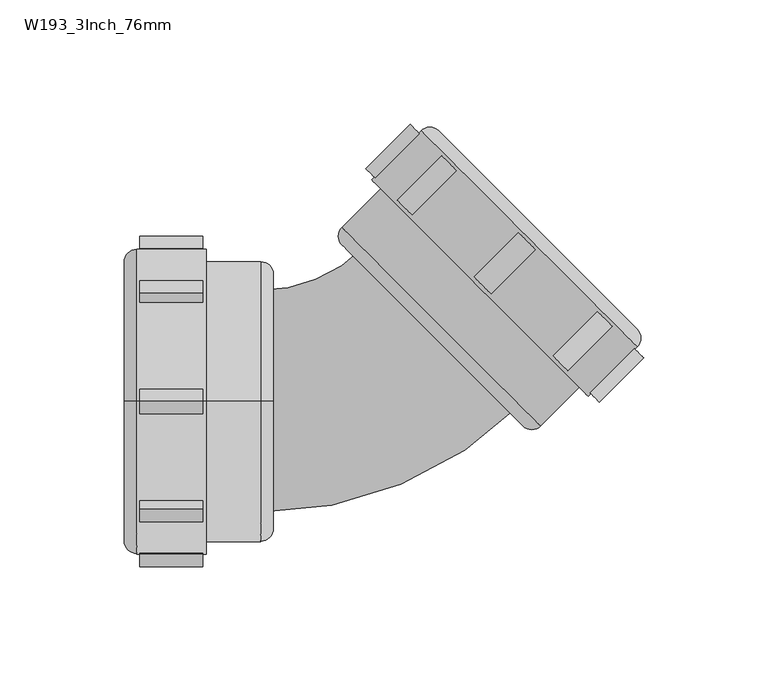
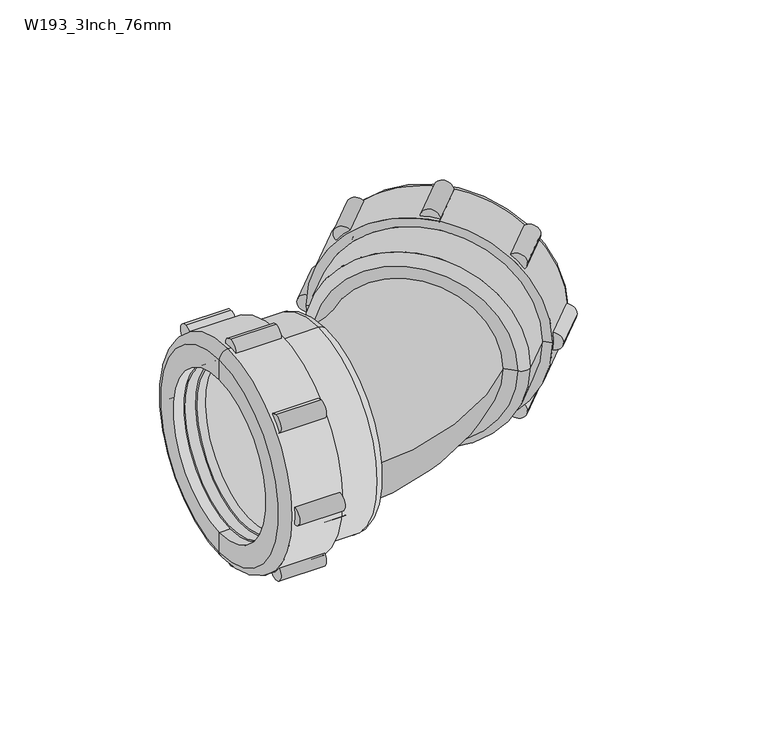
"""IFC4 building model written with IfcOpenShell, lengths in millimetres: pipe fitting geometry, Durapipe_PipeFitting_VulcatheneMechanical_135SlowBend_W19 : W193_3Inch_76mm."""

from ifc_helpers import new_model, si_unit, point, frame, frame_2d, origin, place, context, project, spatial, polyline, circle_curve, ellipse_curve, trimmed, segment, composite_curve, outline, extrude, source, transform, mapped, element, save
from ifc_brep_helpers import plane_surface, cylinder_surface, revolved_surface, advanced_brep


def w193_3inch_76mm_4dbc38d3(model_context):
    return source(origin(), model_context, "Body", "SolidModel", [
        advanced_brep(
        [(61.4648747, 89.9520203, 35.9917352), (112.3648747, 39.0520203, -35.9917352), (109.0648747, 42.3520203, -31.3248304), (64.7648747, 86.6520203, 31.3248304), (49.310607, 73.3977526, 32.8804653), (95.810607, 26.8977526, -32.8804653), (31.8450695, 55.9322151, 32.8804653), (78.3450695, 9.4322151, -32.8804653), (32.9450695, 54.8322151, 31.3248304), (77.2450695, 10.5322151, -31.3248304), (57.1988321, 79.0859777, 31.3248304), (101.4988321, 34.7859777, -31.3248304), (57.6488321, 78.6359777, 30.6884343), (101.0488321, 35.2359777, -30.6884343), (60.4515233, 82.3386689, 31.3248304), (104.7515233, 38.0386689, -31.3248304), (104.3015233, 38.4886689, -30.6884343), (60.9015233, 81.8886689, 30.6884343)],
        [
            (0, 1, circle_curve(frame((86.9148747, 64.5020203, 0.0), z_axis=(0.7071067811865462, 0.7071067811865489, 0.0), x_axis=(0.5000000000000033, -0.4999999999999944, -0.7071067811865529)), 50.9)),
            (1, 2),
            (2, 3, circle_curve(frame((86.9148747, 64.5020203, 0.0), z_axis=(-0.7071067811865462, -0.7071067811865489, 0.0), x_axis=(0.5000000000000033, -0.4999999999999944, -0.7071067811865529)), 44.3)),
            (3, 0),
            (1, 0, circle_curve(frame((86.9148747, 64.5020203, 0.0), z_axis=(0.7071067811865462, 0.7071067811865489, 0.0), x_axis=(0.5000000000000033, -0.4999999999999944, -0.7071067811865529)), 50.9)),
            (3, 2, circle_curve(frame((86.9148747, 64.5020203, 0.0), z_axis=(-0.7071067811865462, -0.7071067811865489, 0.0), x_axis=(0.5000000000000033, -0.4999999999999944, -0.7071067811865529)), 44.3)),
            (0, 4),
            (4, 5, circle_curve(frame((72.560607, 50.1477526, 0.0), z_axis=(0.7071067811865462, 0.7071067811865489, 0.0), x_axis=(0.5000000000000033, -0.4999999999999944, -0.7071067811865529)), 46.5)),
            (5, 1),
            (5, 4, circle_curve(frame((72.560607, 50.1477526, 0.0), z_axis=(0.7071067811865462, 0.7071067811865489, 0.0), x_axis=(0.5000000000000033, -0.4999999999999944, -0.7071067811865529)), 46.5)),
            (6, 7, circle_curve(frame((55.0950695, 32.6822151, 0.0), z_axis=(0.7071067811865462, 0.7071067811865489, 0.0), x_axis=(0.5000000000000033, -0.4999999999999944, -0.7071067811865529)), 46.5)),
            (7, 5),
            (4, 6),
            (7, 6, circle_curve(frame((55.0950695, 32.6822151, 0.0), z_axis=(0.7071067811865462, 0.7071067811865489, 0.0), x_axis=(0.5000000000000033, -0.4999999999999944, -0.7071067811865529)), 46.5)),
            (6, 8),
            (8, 9, circle_curve(frame((55.0950695, 32.6822151, 0.0), z_axis=(0.7071067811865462, 0.7071067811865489, 0.0), x_axis=(0.5000000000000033, -0.4999999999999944, -0.7071067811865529)), 44.3)),
            (9, 7),
            (9, 8, circle_curve(frame((55.0950695, 32.6822151, 0.0), z_axis=(0.7071067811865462, 0.7071067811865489, 0.0), x_axis=(0.5000000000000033, -0.4999999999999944, -0.7071067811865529)), 44.3)),
            (8, 10),
            (10, 11, circle_curve(frame((79.3488321, 56.9359777, 0.0), z_axis=(0.7071067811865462, 0.7071067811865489, 0.0), x_axis=(0.5000000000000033, -0.4999999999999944, -0.7071067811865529)), 44.3)),
            (11, 9),
            (11, 10, circle_curve(frame((79.3488321, 56.9359777, 0.0), z_axis=(0.7071067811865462, 0.7071067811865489, 0.0), x_axis=(0.5000000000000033, -0.4999999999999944, -0.7071067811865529)), 44.3)),
            (10, 12),
            (12, 13, circle_curve(frame((79.3488321, 56.9359777, 0.0), z_axis=(0.7071067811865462, 0.7071067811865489, 0.0), x_axis=(0.5000000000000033, -0.4999999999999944, -0.7071067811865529)), 43.4)),
            (13, 11),
            (13, 12, circle_curve(frame((79.3488321, 56.9359777, 0.0), z_axis=(0.7071067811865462, 0.7071067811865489, 0.0), x_axis=(0.5000000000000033, -0.4999999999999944, -0.7071067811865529)), 43.4)),
            (14, 15, circle_curve(frame((82.6015233, 60.1886689, 0.0), z_axis=(0.7071067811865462, 0.7071067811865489, 0.0), x_axis=(0.5000000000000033, -0.4999999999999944, -0.7071067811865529)), 44.3)),
            (15, 16),
            (16, 17, circle_curve(frame((82.6015233, 60.1886689, 0.0), z_axis=(-0.7071067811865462, -0.7071067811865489, 0.0), x_axis=(0.5000000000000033, -0.4999999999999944, -0.7071067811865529)), 43.4)),
            (17, 14),
            (15, 14, circle_curve(frame((82.6015233, 60.1886689, 0.0), z_axis=(0.7071067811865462, 0.7071067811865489, 0.0), x_axis=(0.5000000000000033, -0.4999999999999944, -0.7071067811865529)), 44.3)),
            (17, 16, circle_curve(frame((82.6015233, 60.1886689, 0.0), z_axis=(-0.7071067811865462, -0.7071067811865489, 0.0), x_axis=(0.5000000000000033, -0.4999999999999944, -0.7071067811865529)), 43.4)),
            (2, 15),
            (14, 3),
            (12, 17),
            (16, 13),
        ],
        [
            plane_surface(frame((86.9148747, 64.5020203, 0.0), z_axis=(0.7071067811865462, 0.7071067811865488, 0.0), x_axis=(0.500000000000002, -0.4999999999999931, -0.707106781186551))),
            revolved_surface(polyline([(112.3648747, 39.0520203, -35.9917352), (95.810607, 26.8977526, -32.8804653)]), (90.4504086, 68.0375542, 0.0), (-0.7071067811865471, -0.7071067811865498, 0.0)),
            cylinder_surface(frame((53.6308948, 31.2180404, 0.0), z_axis=(-0.7071067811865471, -0.7071067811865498, 0.0), x_axis=(0.5000000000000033, -0.4999999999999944, -0.7071067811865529)), 46.5),
            plane_surface(frame((55.0950695, 32.6822151, 0.0), z_axis=(-0.7071067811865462, -0.7071067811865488, 0.0), x_axis=(0.500000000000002, -0.4999999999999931, -0.707106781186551))),
            revolved_surface(polyline([(77.2450695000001, 10.53221510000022, -31.324830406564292), (101.4988321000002, 34.785977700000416, -31.324830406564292)]), (52.6251519, 30.2122975, 0.0), (-0.7071067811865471, -0.7071067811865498, 0.0)),
            plane_surface(frame((79.3488321, 56.9359777, 0.0), z_axis=(-0.7071067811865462, -0.7071067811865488, 0.0), x_axis=(0.500000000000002, -0.4999999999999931, -0.707106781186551))),
            plane_surface(frame((82.6015233, 60.1886689, 0.0), z_axis=(0.7071067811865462, 0.7071067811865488, 0.0), x_axis=(0.500000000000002, -0.4999999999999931, -0.707106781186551))),
            revolved_surface(polyline([(104.7515233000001, 38.038668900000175, -31.324830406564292), (109.06487470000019, 42.35202030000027, -31.324830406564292)]), (90.4504086, 68.0375542, 0.0), (-0.7071067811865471, -0.7071067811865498, 0.0)),
            revolved_surface(polyline([(101.0488321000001, 35.235977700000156, -30.688434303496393), (104.30152330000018, 38.488668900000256, -30.688434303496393)]), (88.0223399, 65.6094855, 0.0), (-0.7071067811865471, -0.7071067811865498, 0.0)),
        ],
        [
            (0, [[1, 2, 3, 4]]),
            (0, [[-2, 5, -4, 6]]),
            (1, [[-1, 7, 8, 9]]),
            (1, [[-5, -9, 10, -7]]),
            (2, [[11, 12, -8, 13]]),
            (2, [[-12, 14, -13, -10]]),
            (3, [[-11, 15, 16, 17]]),
            (3, [[-14, -17, 18, -15]]),
            (4, [[19, 20, 21, -16]]),
            (4, [[-19, -18, -21, 22]]),
            (5, [[-20, 23, 24, 25]]),
            (5, [[-22, -25, 26, -23]]),
            (6, [[27, 28, 29, 30]]),
            (6, [[31, -30, 32, -28]]),
            (7, [[-3, 33, -27, 34]]),
            (7, [[-6, -34, -31, -33]]),
            (8, [[35, -29, 36, -24]]),
            (8, [[-35, -26, -36, -32]]),
        ],
    ),
        advanced_brep(
        [(24.5480566, 89.1093362, 0.0), (111.5221906, 2.1352022, 0.0), (131.3211805, 21.934192, 0.0), (44.3470464, 108.9083261, 0.0), (28.0835905, 85.5738023, 0.0), (107.9866567, 5.6707361, 0.0), (51.4181142, 108.9083261, 0.0), (131.3211805, 29.0052598, 0.0), (123.1894525, 37.1369878, 0.0), (59.5498422, 100.7765981, 0.0), (49.4382152, 101.9786797, 0.0), (124.3915341, 27.0253609, 0.0), (90.3796979, -6.9864753, 0.0), (15.4263791, 67.9668435, 0.0), (55.0950695, 96.3218254, 0.0), (118.7346798, 32.6822151, 0.0), (12.5272413, 70.0174531, 0.0), (92.4303075, -9.8856131, 0.0), (12.5272413, 62.9463853, 0.0), (85.3592397, -9.8856131, 0.0), (48.9432405, 26.5303861, 0.0), (52.9030385, 30.4901841, 0.0)],
        [
            (0, 1, circle_curve(frame((68.0351236, 45.6222692, 0.0), z_axis=(0.7071067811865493, 0.7071067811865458, 0.0), x_axis=(0.7071067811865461, -0.7071067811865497, 0.0)), 61.5)),
            (1, 2),
            (2, 3, circle_curve(frame((87.8341135, 65.4212591, 0.0), z_axis=(-0.7071067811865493, -0.7071067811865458, 0.0), x_axis=(0.7071067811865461, -0.7071067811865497, 0.0)), 61.5)),
            (3, 0),
            (1, 0, circle_curve(frame((68.0351236, 45.6222692, 0.0), z_axis=(0.7071067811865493, 0.7071067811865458, 0.0), x_axis=(0.7071067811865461, -0.7071067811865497, 0.0)), 61.5)),
            (3, 2, circle_curve(frame((87.8341135, 65.4212591, 0.0), z_axis=(-0.7071067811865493, -0.7071067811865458, 0.0), x_axis=(0.7071067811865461, -0.7071067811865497, 0.0)), 61.5)),
            (4, 5, circle_curve(frame((68.0351236, 45.6222692, 0.0), z_axis=(0.7071067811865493, 0.7071067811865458, 0.0), x_axis=(0.7071067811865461, -0.7071067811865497, 0.0)), 56.5)),
            (5, 1),
            (0, 4),
            (5, 4, circle_curve(frame((68.0351236, 45.6222692, 0.0), z_axis=(0.7071067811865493, 0.7071067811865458, 0.0), x_axis=(0.7071067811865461, -0.7071067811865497, 0.0)), 56.5)),
            (6, 7, circle_curve(frame((91.3696474, 68.956793, 0.0), z_axis=(0.7071067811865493, 0.7071067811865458, 0.0), x_axis=(0.7071067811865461, -0.7071067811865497, 0.0)), 56.5)),
            (7, 8),
            (8, 9, circle_curve(frame((91.3696474, 68.956793, 0.0), z_axis=(-0.7071067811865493, -0.7071067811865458, 0.0), x_axis=(0.7071067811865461, -0.7071067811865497, 0.0)), 45.0)),
            (9, 6),
            (7, 6, circle_curve(frame((91.3696474, 68.956793, 0.0), z_axis=(0.7071067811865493, 0.7071067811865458, 0.0), x_axis=(0.7071067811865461, -0.7071067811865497, 0.0)), 56.5)),
            (9, 8, circle_curve(frame((91.3696474, 68.956793, 0.0), z_axis=(-0.7071067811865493, -0.7071067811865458, 0.0), x_axis=(0.7071067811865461, -0.7071067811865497, 0.0)), 45.0)),
            (2, 7, circle_curve(frame((127.7856466, 25.4697259, 0.0), z_axis=(0.0, 0.0, 1.0000000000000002), x_axis=(0.7071067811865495, 0.7071067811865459, 0.0)), 5.0)),
            (6, 3, circle_curve(frame((47.8825803, 105.3727922, 0.0), z_axis=(0.0, 0.0, 1.0000000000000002), x_axis=(0.7071067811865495, 0.7071067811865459, 0.0)), 5.0)),
            (10, 11, circle_curve(frame((86.9148747, 64.5020203, 0.0), z_axis=(0.7071067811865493, 0.7071067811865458, 0.0), x_axis=(0.7071067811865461, -0.7071067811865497, 0.0)), 53.0)),
            (11, 12),
            (12, 13, circle_curve(frame((52.9030385, 30.4901841, 0.0), z_axis=(-0.7071067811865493, -0.7071067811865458, 0.0), x_axis=(0.7071067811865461, -0.7071067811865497, 0.0)), 53.0)),
            (13, 10),
            (11, 10, circle_curve(frame((86.9148747, 64.5020203, 0.0), z_axis=(0.7071067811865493, 0.7071067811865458, 0.0), x_axis=(0.7071067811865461, -0.7071067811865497, 0.0)), 53.0)),
            (13, 12, circle_curve(frame((52.9030385, 30.4901841, 0.0), z_axis=(-0.7071067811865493, -0.7071067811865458, 0.0), x_axis=(0.7071067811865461, -0.7071067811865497, 0.0)), 53.0)),
            (14, 15, circle_curve(frame((86.9148747, 64.5020203, 0.0), z_axis=(0.7071067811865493, 0.7071067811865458, 0.0), x_axis=(0.7071067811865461, -0.7071067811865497, 0.0)), 45.0)),
            (15, 11),
            (10, 14),
            (15, 14, circle_curve(frame((86.9148747, 64.5020203, 0.0), z_axis=(0.7071067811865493, 0.7071067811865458, 0.0), x_axis=(0.7071067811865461, -0.7071067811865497, 0.0)), 45.0)),
            (8, 15),
            (14, 9),
            (16, 17, circle_curve(frame((52.4787744, 30.06592, 0.0), z_axis=(0.7071067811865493, 0.7071067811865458, 0.0), x_axis=(0.7071067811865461, -0.7071067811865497, 0.0)), 56.5)),
            (17, 5),
            (4, 16),
            (17, 16, circle_curve(frame((52.4787744, 30.06592, 0.0), z_axis=(0.7071067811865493, 0.7071067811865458, 0.0), x_axis=(0.7071067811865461, -0.7071067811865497, 0.0)), 56.5)),
            (18, 19, circle_curve(frame((48.9432405, 26.5303861, 0.0), z_axis=(0.7071067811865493, 0.7071067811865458, 0.0), x_axis=(0.7071067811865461, -0.7071067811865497, 0.0)), 51.5)),
            (19, 17, circle_curve(frame((88.8947736, -6.3500792, 0.0), z_axis=(0.0, 0.0, 1.0000000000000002), x_axis=(0.7071067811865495, 0.7071067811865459, 0.0)), 5.0)),
            (16, 18, circle_curve(frame((16.0627752, 66.4819192, 0.0), z_axis=(0.0, 0.0, 1.0000000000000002), x_axis=(0.7071067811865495, 0.7071067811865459, 0.0)), 5.0)),
            (19, 18, circle_curve(frame((48.9432405, 26.5303861, 0.0), z_axis=(0.7071067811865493, 0.7071067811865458, 0.0), x_axis=(0.7071067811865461, -0.7071067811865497, 0.0)), 51.5)),
            (20, 19),
            (18, 20),
            (12, 21),
            (21, 13),
        ],
        [
            cylinder_surface(frame((1195.0231972, 1172.6103428, 0.0), z_axis=(-0.7071067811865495, -0.7071067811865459, 0.0), x_axis=(0.7071067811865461, -0.7071067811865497, 0.0)), 61.5),
            plane_surface(frame((68.0351236, 45.6222692, 0.0), z_axis=(-0.7071067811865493, -0.7071067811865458, 0.0), x_axis=(0.7071067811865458, -0.7071067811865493, 0.0))),
            plane_surface(frame((91.3696474, 68.956793, 0.0), z_axis=(0.7071067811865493, 0.7071067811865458, 0.0), x_axis=(0.7071067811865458, -0.7071067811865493, 0.0))),
            revolved_surface(trimmed(ellipse_curve(frame((127.7856466, 25.4697259, 0.0), z_axis=(0.0, 0.0, -1.0000000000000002), x_axis=(0.7071067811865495, 0.7071067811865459, 0.0)), 5.0, 5.0), [point((131.3211805, 29.0052598, 0.0))], [point((131.3211805, 21.934192, 0.0))], True, "CARTESIAN"), (1195.0231972, 1172.6103428, 0.0), (-0.7071067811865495, -0.7071067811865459, 0.0)),
            revolved_surface(polyline([(90.37969790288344, -6.986475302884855, 0.0), (124.39153410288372, 27.025360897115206, 0.0)]), (1195.0231972, 1172.6103428, 0.0), (-0.7071067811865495, -0.7071067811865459, 0.0)),
            plane_surface(frame((86.9148747, 64.5020203, 0.0), z_axis=(-0.7071067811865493, -0.7071067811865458, 0.0), x_axis=(0.7071067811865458, -0.7071067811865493, 0.0))),
            revolved_surface(polyline([(118.73467980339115, 32.68221509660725, 0.0), (123.18945255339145, 37.13698784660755, 0.0)]), (1195.0231972, 1172.6103428, 0.0), (-0.7071067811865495, -0.7071067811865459, 0.0)),
            cylinder_surface(frame((1195.0231972, 1172.6103428, 0.0), z_axis=(-0.7071067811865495, -0.7071067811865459, 0.0), x_axis=(0.7071067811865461, -0.7071067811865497, 0.0)), 56.5),
            revolved_surface(trimmed(ellipse_curve(frame((88.8947736, -6.3500792, 0.0), z_axis=(0.0, 0.0, -1.0000000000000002), x_axis=(0.7071067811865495, 0.7071067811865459, 0.0)), 5.0, 5.0), [point((92.4303075, -9.8856131, 0.0))], [point((85.3592397, -9.8856131, 0.0))], True, "CARTESIAN"), (1195.0231972, 1172.6103428, 0.0), (-0.7071067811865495, -0.7071067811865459, 0.0)),
            plane_surface(frame((48.9432405, 26.5303861, 0.0), z_axis=(-0.7071067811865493, -0.7071067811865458, 0.0), x_axis=(0.7071067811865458, -0.7071067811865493, 0.0))),
            plane_surface(frame((52.9030385, 30.4901841, 0.0), z_axis=(0.7071067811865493, 0.7071067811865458, 0.0), x_axis=(0.7071067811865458, -0.7071067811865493, 0.0))),
        ],
        [
            (0, [[1, 2, 3, 4]]),
            (0, [[5, -4, 6, -2]]),
            (1, [[7, 8, -1, 9]]),
            (1, [[10, -9, -5, -8]]),
            (2, [[11, 12, 13, 14]]),
            (2, [[15, -14, 16, -12]]),
            (3, [[-3, 17, -11, 18]]),
            (3, [[-6, -18, -15, -17]]),
            (4, [[19, 20, 21, 22]]),
            (4, [[23, -22, 24, -20]]),
            (5, [[25, 26, -19, 27]]),
            (5, [[28, -27, -23, -26]]),
            (6, [[-13, 29, -25, 30]]),
            (6, [[-16, -30, -28, -29]]),
            (7, [[31, 32, -7, 33]]),
            (7, [[34, -33, -10, -32]]),
            (8, [[35, 36, -31, 37]]),
            (8, [[38, -37, -34, -36]]),
            (9, [[39, -35, 40]]),
            (9, [[-40, -38, -39]]),
            (10, [[-21, 41, 42]]),
            (10, [[-24, -42, -41]]),
        ],
    ),
        extrude(outline(composite_curve([segment(trimmed(circle_curve(frame_2d((0.0, -5.0)), 5.0), [point((0.0, -10.0))], [point((0.0, 0.0))], False, "CARTESIAN"), True, "CONTINUOUS"), segment(trimmed(circle_curve(frame_2d((0.0, -5.0)), 5.0), [point((0.0, 0.0))], [point((0.0, -10.0))], False, "CARTESIAN"), True, "CONTINUOUS")], self_intersect=False)), frame((72.6313177, 43.1473955, -61.5), z_axis=(0.7071067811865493, 0.7071067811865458, 0.0), x_axis=(0.0, 0.0, 1.0)), (0.0, 0.0, 1.0), 25.2),
        extrude(outline(composite_curve([segment(trimmed(circle_curve(frame_2d((18.012933, 38.4870671)), 5.0), [point((18.012933, 33.4870671))], [point((18.012933, 43.487067))], False, "CARTESIAN"), True, "CONTINUOUS"), segment(trimmed(circle_curve(frame_2d((18.012933, 38.4870671)), 5.0), [point((18.012933, 43.487067))], [point((18.012933, 33.4870671))], False, "CARTESIAN"), True, "CONTINUOUS")], self_intersect=False)), frame((72.6313177, 43.1473955, -61.5), z_axis=(0.7071067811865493, 0.7071067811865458, 0.0), x_axis=(0.0, 0.0, 1.0)), (0.0, 0.0, 1.0), 25.2),
        extrude(outline(composite_curve([segment(trimmed(circle_curve(frame_2d((61.5, 56.5)), 5.0), [point((61.5, 51.5))], [point((61.5, 61.5))], False, "CARTESIAN"), True, "CONTINUOUS"), segment(trimmed(circle_curve(frame_2d((61.5, 56.5)), 5.0), [point((61.5, 61.5))], [point((61.5, 51.5))], False, "CARTESIAN"), True, "CONTINUOUS")], self_intersect=False)), frame((72.6313177, 43.1473955, -61.5), z_axis=(0.7071067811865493, 0.7071067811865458, 0.0), x_axis=(0.0, 0.0, 1.0)), (0.0, 0.0, 1.0), 25.2),
        extrude(outline(composite_curve([segment(trimmed(circle_curve(frame_2d((104.987067, 38.4870671)), 5.0), [point((104.987067, 33.4870671))], [point((104.987067, 43.487067))], False, "CARTESIAN"), True, "CONTINUOUS"), segment(trimmed(circle_curve(frame_2d((104.987067, 38.4870671)), 5.0), [point((104.987067, 43.487067))], [point((104.987067, 33.4870671))], False, "CARTESIAN"), True, "CONTINUOUS")], self_intersect=False)), frame((72.6313177, 43.1473955, -61.5), z_axis=(0.7071067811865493, 0.7071067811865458, 0.0), x_axis=(0.0, 0.0, 1.0)), (0.0, 0.0, 1.0), 25.2),
        extrude(outline(composite_curve([segment(trimmed(circle_curve(frame_2d((123.0, -5.0)), 5.0), [point((123.0, -10.0))], [point((123.0, 0.0))], False, "CARTESIAN"), True, "CONTINUOUS"), segment(trimmed(circle_curve(frame_2d((123.0, -5.0)), 5.0), [point((123.0, 0.0))], [point((123.0, -10.0))], False, "CARTESIAN"), True, "CONTINUOUS")], self_intersect=False)), frame((72.6313177, 43.1473955, -61.5), z_axis=(0.7071067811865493, 0.7071067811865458, 0.0), x_axis=(0.0, 0.0, 1.0)), (0.0, 0.0, 1.0), 25.2),
        extrude(outline(composite_curve([segment(trimmed(circle_curve(frame_2d((104.987067, -48.487067)), 5.0), [point((104.987067, -53.487067))], [point((104.987067, -43.487067))], False, "CARTESIAN"), True, "CONTINUOUS"), segment(trimmed(circle_curve(frame_2d((104.987067, -48.487067)), 5.0), [point((104.987067, -43.487067))], [point((104.987067, -53.487067))], False, "CARTESIAN"), True, "CONTINUOUS")], self_intersect=False)), frame((72.6313177, 43.1473955, -61.5), z_axis=(0.7071067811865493, 0.7071067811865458, 0.0), x_axis=(0.0, 0.0, 1.0)), (0.0, 0.0, 1.0), 25.2),
        extrude(outline(composite_curve([segment(trimmed(circle_curve(frame_2d((61.5, -66.5)), 5.0), [point((61.5, -71.5))], [point((61.5, -61.5))], False, "CARTESIAN"), True, "CONTINUOUS"), segment(trimmed(circle_curve(frame_2d((61.5, -66.5)), 5.0), [point((61.5, -61.5))], [point((61.5, -71.5))], False, "CARTESIAN"), True, "CONTINUOUS")], self_intersect=False)), frame((72.6313177, 43.1473955, -61.5), z_axis=(0.7071067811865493, 0.7071067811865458, 0.0), x_axis=(0.0, 0.0, 1.0)), (0.0, 0.0, 1.0), 25.2),
        extrude(outline(composite_curve([segment(trimmed(circle_curve(frame_2d((18.012933, -48.487067)), 5.0), [point((18.012933, -53.487067))], [point((18.012933, -43.487067))], False, "CARTESIAN"), True, "CONTINUOUS"), segment(trimmed(circle_curve(frame_2d((18.012933, -48.487067)), 5.0), [point((18.012933, -43.487067))], [point((18.012933, -53.487067))], False, "CARTESIAN"), True, "CONTINUOUS")], self_intersect=False)), frame((72.6313177, 43.1473955, -61.5), z_axis=(0.7071067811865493, 0.7071067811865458, 0.0), x_axis=(0.0, 0.0, 1.0)), (0.0, 0.0, 1.0), 25.2),
        advanced_brep(
        [(-68.8067774, -35.9917352, -35.9917352), (-68.8067774, 35.9917352, 35.9917352), (-68.8067774, 31.3248304, 31.3248304), (-68.8067774, -31.3248304, -31.3248304), (-48.5067774, -32.8804653, -32.8804653), (-48.5067774, 32.8804653, 32.8804653), (-23.8067774, -32.8804653, -32.8804653), (-23.8067774, 32.8804653, 32.8804653), (-23.8067774, -31.3248304, -31.3248304), (-23.8067774, 31.3248304, 31.3248304), (-58.1067774, -31.3248304, -31.3248304), (-58.1067774, 31.3248304, 31.3248304), (-58.1067774, -30.6884343, -30.6884343), (-58.1067774, 30.6884343, 30.6884343), (-62.7067774, -31.3248304, -31.3248304), (-62.7067774, 31.3248304, 31.3248304), (-62.7067774, 30.6884343, 30.6884343), (-62.7067774, -30.6884343, -30.6884343)],
        [
            (0, 1, circle_curve(frame((-68.8067774, 0.0, 0.0), z_axis=(-1.0, 0.0, 0.0), x_axis=(0.0, 0.7071067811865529, 0.7071067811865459)), 50.9)),
            (1, 2),
            (2, 3, circle_curve(frame((-68.8067774, 0.0, 0.0), z_axis=(1.0, 0.0, 0.0), x_axis=(0.0, 0.7071067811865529, 0.7071067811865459)), 44.3)),
            (3, 0),
            (1, 0, circle_curve(frame((-68.8067774, 0.0, 0.0), z_axis=(-1.0, 0.0, 0.0), x_axis=(0.0, 0.7071067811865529, 0.7071067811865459)), 50.9)),
            (3, 2, circle_curve(frame((-68.8067774, 0.0, 0.0), z_axis=(1.0, 0.0, 0.0), x_axis=(0.0, 0.7071067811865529, 0.7071067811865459)), 44.3)),
            (0, 4),
            (4, 5, circle_curve(frame((-48.5067774, 0.0, 0.0), z_axis=(-1.0, 0.0, 0.0), x_axis=(0.0, 0.7071067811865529, 0.7071067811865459)), 46.5)),
            (5, 1),
            (5, 4, circle_curve(frame((-48.5067774, 0.0, 0.0), z_axis=(-1.0, 0.0, 0.0), x_axis=(0.0, 0.7071067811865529, 0.7071067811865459)), 46.5)),
            (6, 7, circle_curve(frame((-23.8067774, 0.0, 0.0), z_axis=(-1.0, 0.0, 0.0), x_axis=(0.0, 0.7071067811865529, 0.7071067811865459)), 46.5)),
            (7, 5),
            (4, 6),
            (7, 6, circle_curve(frame((-23.8067774, 0.0, 0.0), z_axis=(-1.0, 0.0, 0.0), x_axis=(0.0, 0.7071067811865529, 0.7071067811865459)), 46.5)),
            (6, 8),
            (8, 9, circle_curve(frame((-23.8067774, 0.0, 0.0), z_axis=(-1.0, 0.0, 0.0), x_axis=(0.0, 0.7071067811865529, 0.7071067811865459)), 44.3)),
            (9, 7),
            (9, 8, circle_curve(frame((-23.8067774, 0.0, 0.0), z_axis=(-1.0, 0.0, 0.0), x_axis=(0.0, 0.7071067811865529, 0.7071067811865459)), 44.3)),
            (8, 10),
            (10, 11, circle_curve(frame((-58.1067774, 0.0, 0.0), z_axis=(-1.0, 0.0, 0.0), x_axis=(0.0, 0.7071067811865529, 0.7071067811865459)), 44.3)),
            (11, 9),
            (11, 10, circle_curve(frame((-58.1067774, 0.0, 0.0), z_axis=(-1.0, 0.0, 0.0), x_axis=(0.0, 0.7071067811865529, 0.7071067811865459)), 44.3)),
            (10, 12),
            (12, 13, circle_curve(frame((-58.1067774, 0.0, 0.0), z_axis=(-1.0, 0.0, 0.0), x_axis=(0.0, 0.7071067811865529, 0.7071067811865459)), 43.4)),
            (13, 11),
            (13, 12, circle_curve(frame((-58.1067774, 0.0, 0.0), z_axis=(-1.0, 0.0, 0.0), x_axis=(0.0, 0.7071067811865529, 0.7071067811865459)), 43.4)),
            (14, 15, circle_curve(frame((-62.7067774, 0.0, 0.0), z_axis=(-1.0, 0.0, 0.0), x_axis=(0.0, 0.7071067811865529, 0.7071067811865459)), 44.3)),
            (15, 16),
            (16, 17, circle_curve(frame((-62.7067774, 0.0, 0.0), z_axis=(1.0, 0.0, 0.0), x_axis=(0.0, 0.7071067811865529, 0.7071067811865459)), 43.4)),
            (17, 14),
            (15, 14, circle_curve(frame((-62.7067774, 0.0, 0.0), z_axis=(-1.0, 0.0, 0.0), x_axis=(0.0, 0.7071067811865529, 0.7071067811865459)), 44.3)),
            (17, 16, circle_curve(frame((-62.7067774, 0.0, 0.0), z_axis=(1.0, 0.0, 0.0), x_axis=(0.0, 0.7071067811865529, 0.7071067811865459)), 43.4)),
            (2, 15),
            (14, 3),
            (12, 17),
            (16, 13),
        ],
        [
            plane_surface(frame((-68.8067774, 0.0, 0.0), z_axis=(-1.0, 0.0, 0.0), x_axis=(0.0, 0.707106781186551, 0.707106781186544))),
            revolved_surface(polyline([(-68.8067774, 35.9917352, 35.9917352), (-48.5067774, 32.8804653, 32.8804653)]), (-73.8067774, 0.0, 0.0), (1.0000000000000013, 0.0, 0.0)),
            cylinder_surface(frame((-21.7361217, 0.0, 0.0), z_axis=(1.0000000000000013, 0.0, 0.0), x_axis=(0.0, 0.7071067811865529, 0.7071067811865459)), 46.5),
            plane_surface(frame((-23.8067774, 0.0, 0.0), z_axis=(1.0, 0.0, 0.0), x_axis=(0.0, 0.707106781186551, 0.707106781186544))),
            revolved_surface(polyline([(-23.80677740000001, 31.324830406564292, 31.324830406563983), (-58.1067774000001, 31.324830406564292, 31.324830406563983)]), (-20.3137865, 0.0, 0.0), (1.0000000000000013, 0.0, 0.0)),
            plane_surface(frame((-58.1067774, 0.0, 0.0), z_axis=(1.0, 0.0, 0.0), x_axis=(0.0, 0.707106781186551, 0.707106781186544))),
            plane_surface(frame((-62.7067774, 0.0, 0.0), z_axis=(-1.0, 0.0, 0.0), x_axis=(0.0, 0.707106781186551, 0.707106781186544))),
            revolved_surface(polyline([(-62.70677739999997, 31.324830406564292, 31.324830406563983), (-68.80677739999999, 31.324830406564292, 31.324830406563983)]), (-73.8067774, 0.0, 0.0), (1.0000000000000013, 0.0, 0.0)),
            revolved_surface(polyline([(-58.10677739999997, 30.688434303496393, 30.68843430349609), (-62.70677739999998, 30.688434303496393, 30.68843430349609)]), (-70.3729699, 0.0, 0.0), (1.0000000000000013, 0.0, 0.0)),
        ],
        [
            (0, [[1, 2, 3, 4]]),
            (0, [[-2, 5, -4, 6]]),
            (1, [[-1, 7, 8, 9]]),
            (1, [[-5, -9, 10, -7]]),
            (2, [[11, 12, -8, 13]]),
            (2, [[-12, 14, -13, -10]]),
            (3, [[-11, 15, 16, 17]]),
            (3, [[-14, -17, 18, -15]]),
            (4, [[19, 20, 21, -16]]),
            (4, [[-19, -18, -21, 22]]),
            (5, [[-20, 23, 24, 25]]),
            (5, [[-22, -25, 26, -23]]),
            (6, [[27, 28, 29, 30]]),
            (6, [[31, -30, 32, -28]]),
            (7, [[-3, 33, -27, 34]]),
            (7, [[-6, -34, -31, -33]]),
            (8, [[35, -29, 36, -24]]),
            (8, [[-35, -26, -36, -32]]),
        ],
    ),
        advanced_brep(
        [(-42.1067774, 0.0, -61.5), (-42.1067774, 0.0, 61.5), (-70.1067774, 0.0, 61.5), (-70.1067774, 0.0, -61.5), (-42.1067774, 0.0, -56.5), (-42.1067774, 0.0, 56.5), (-75.1067774, 0.0, -56.5), (-75.1067774, 0.0, 56.5), (-75.1067774, 0.0, 45.0), (-75.1067774, 0.0, -45.0), (-68.8067774, 0.0, -53.0), (-68.8067774, 0.0, 53.0), (-20.7067774, 0.0, 53.0), (-20.7067774, 0.0, -53.0), (-68.8067774, 0.0, -45.0), (-68.8067774, 0.0, 45.0), (-20.1067774, 0.0, -56.5), (-20.1067774, 0.0, 56.5), (-15.1067774, 0.0, -51.5), (-15.1067774, 0.0, 51.5), (-15.1067774, 0.0, 0.0), (-20.7067774, 0.0, 0.0)],
        [
            (0, 1, circle_curve(frame((-42.1067774, 0.0, 0.0), z_axis=(-1.0, 0.0, 0.0), x_axis=(0.0, 0.0, 1.0000000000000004)), 61.5)),
            (1, 2),
            (2, 3, circle_curve(frame((-70.1067774, 0.0, 0.0), z_axis=(1.0, 0.0, 0.0), x_axis=(0.0, 0.0, 1.0000000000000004)), 61.5)),
            (3, 0),
            (1, 0, circle_curve(frame((-42.1067774, 0.0, 0.0), z_axis=(-1.0, 0.0, 0.0), x_axis=(0.0, 0.0, 1.0000000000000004)), 61.5)),
            (3, 2, circle_curve(frame((-70.1067774, 0.0, 0.0), z_axis=(1.0, 0.0, 0.0), x_axis=(0.0, 0.0, 1.0000000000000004)), 61.5)),
            (4, 5, circle_curve(frame((-42.1067774, 0.0, 0.0), z_axis=(-1.0, 0.0, 0.0), x_axis=(0.0, 0.0, 1.0000000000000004)), 56.5)),
            (5, 1),
            (0, 4),
            (5, 4, circle_curve(frame((-42.1067774, 0.0, 0.0), z_axis=(-1.0, 0.0, 0.0), x_axis=(0.0, 0.0, 1.0000000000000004)), 56.5)),
            (6, 7, circle_curve(frame((-75.1067774, 0.0, 0.0), z_axis=(-1.0, 0.0, 0.0), x_axis=(0.0, 0.0, 1.0000000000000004)), 56.5)),
            (7, 8),
            (8, 9, circle_curve(frame((-75.1067774, 0.0, 0.0), z_axis=(1.0, 0.0, 0.0), x_axis=(0.0, 0.0, 1.0000000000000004)), 45.0)),
            (9, 6),
            (7, 6, circle_curve(frame((-75.1067774, 0.0, 0.0), z_axis=(-1.0, 0.0, 0.0), x_axis=(0.0, 0.0, 1.0000000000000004)), 56.5)),
            (9, 8, circle_curve(frame((-75.1067774, 0.0, 0.0), z_axis=(1.0, 0.0, 0.0), x_axis=(0.0, 0.0, 1.0000000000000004)), 45.0)),
            (2, 7, circle_curve(frame((-70.1067774, 0.0, 56.5), z_axis=(0.0, -1.0000000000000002, 0.0), x_axis=(-1.0000000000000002, 0.0, 0.0)), 5.0)),
            (6, 3, circle_curve(frame((-70.1067774, 0.0, -56.5), z_axis=(0.0, -1.0000000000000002, 0.0), x_axis=(-1.0000000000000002, 0.0, 0.0)), 5.0)),
            (10, 11, circle_curve(frame((-68.8067774, 0.0, 0.0), z_axis=(-1.0, 0.0, 0.0), x_axis=(0.0, 0.0, 1.0000000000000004)), 53.0)),
            (11, 12),
            (12, 13, circle_curve(frame((-20.7067774, 0.0, 0.0), z_axis=(1.0, 0.0, 0.0), x_axis=(0.0, 0.0, 1.0000000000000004)), 53.0)),
            (13, 10),
            (11, 10, circle_curve(frame((-68.8067774, 0.0, 0.0), z_axis=(-1.0, 0.0, 0.0), x_axis=(0.0, 0.0, 1.0000000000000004)), 53.0)),
            (13, 12, circle_curve(frame((-20.7067774, 0.0, 0.0), z_axis=(1.0, 0.0, 0.0), x_axis=(0.0, 0.0, 1.0000000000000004)), 53.0)),
            (14, 15, circle_curve(frame((-68.8067774, 0.0, 0.0), z_axis=(-1.0, 0.0, 0.0), x_axis=(0.0, 0.0, 1.0000000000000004)), 45.0)),
            (15, 11),
            (10, 14),
            (15, 14, circle_curve(frame((-68.8067774, 0.0, 0.0), z_axis=(-1.0, 0.0, 0.0), x_axis=(0.0, 0.0, 1.0000000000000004)), 45.0)),
            (8, 15),
            (14, 9),
            (16, 17, circle_curve(frame((-20.1067774, 0.0, 0.0), z_axis=(-1.0, 0.0, 0.0), x_axis=(0.0, 0.0, 1.0000000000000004)), 56.5)),
            (17, 5),
            (4, 16),
            (17, 16, circle_curve(frame((-20.1067774, 0.0, 0.0), z_axis=(-1.0, 0.0, 0.0), x_axis=(0.0, 0.0, 1.0000000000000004)), 56.5)),
            (18, 19, circle_curve(frame((-15.1067774, 0.0, 0.0), z_axis=(-1.0, 0.0, 0.0), x_axis=(0.0, 0.0, 1.0000000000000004)), 51.5)),
            (19, 17, circle_curve(frame((-20.1067774, 0.0, 51.5), z_axis=(0.0, -1.0000000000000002, 0.0), x_axis=(-1.0000000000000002, 0.0, 0.0)), 5.0)),
            (16, 18, circle_curve(frame((-20.1067774, 0.0, -51.5), z_axis=(0.0, -1.0000000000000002, 0.0), x_axis=(-1.0000000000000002, 0.0, 0.0)), 5.0)),
            (19, 18, circle_curve(frame((-15.1067774, 0.0, 0.0), z_axis=(-1.0, 0.0, 0.0), x_axis=(0.0, 0.0, 1.0000000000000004)), 51.5)),
            (20, 19),
            (18, 20),
            (12, 21),
            (21, 13),
        ],
        [
            cylinder_surface(frame((-1635.9085958, 0.0, 0.0), z_axis=(1.0000000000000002, 0.0, 0.0), x_axis=(0.0, 0.0, 1.0000000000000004)), 61.5),
            plane_surface(frame((-42.1067774, 0.0, 0.0), z_axis=(1.0, 0.0, 0.0), x_axis=(0.0, 0.0, 1.0))),
            plane_surface(frame((-75.1067774, 0.0, 0.0), z_axis=(-1.0, 0.0, 0.0), x_axis=(0.0, 0.0, 1.0))),
            revolved_surface(trimmed(ellipse_curve(frame((-70.1067774, 0.0, 56.5), z_axis=(0.0, 1.0000000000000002, 0.0), x_axis=(-1.0000000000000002, 0.0, 0.0)), 5.0, 5.0), [point((-75.1067774, 0.0, 56.5))], [point((-70.1067774, 0.0, 61.5))], True, "CARTESIAN"), (-1635.9085958, 0.0, 0.0), (1.0000000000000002, 0.0, 0.0)),
            revolved_surface(polyline([(-20.706777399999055, 0.0, 53.00000000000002), (-68.80677739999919, 0.0, 53.00000000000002)]), (-1635.9085958, 0.0, 0.0), (1.0000000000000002, 0.0, 0.0)),
            plane_surface(frame((-68.8067774, 0.0, 0.0), z_axis=(1.0, 0.0, 0.0), x_axis=(0.0, 0.0, 1.0))),
            revolved_surface(polyline([(-68.80677739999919, 0.0, 45.00000000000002), (-75.10677739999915, 0.0, 45.00000000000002)]), (-1635.9085958, 0.0, 0.0), (1.0000000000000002, 0.0, 0.0)),
            cylinder_surface(frame((-1635.9085958, 0.0, 0.0), z_axis=(1.0000000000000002, 0.0, 0.0), x_axis=(0.0, 0.0, 1.0000000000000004)), 56.5),
            revolved_surface(trimmed(ellipse_curve(frame((-20.1067774, 0.0, 51.5), z_axis=(0.0, 1.0000000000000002, 0.0), x_axis=(-1.0000000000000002, 0.0, 0.0)), 5.0, 5.0), [point((-20.1067774, 0.0, 56.5))], [point((-15.1067774, 0.0, 51.5))], True, "CARTESIAN"), (-1635.9085958, 0.0, 0.0), (1.0000000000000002, 0.0, 0.0)),
            plane_surface(frame((-15.1067774, 0.0, 0.0), z_axis=(1.0, 0.0, 0.0), x_axis=(0.0, 0.0, 1.0))),
            plane_surface(frame((-20.7067774, 0.0, 0.0), z_axis=(-1.0, 0.0, 0.0), x_axis=(0.0, 0.0, 1.0))),
        ],
        [
            (0, [[1, 2, 3, 4]]),
            (0, [[5, -4, 6, -2]]),
            (1, [[7, 8, -1, 9]]),
            (1, [[10, -9, -5, -8]]),
            (2, [[11, 12, 13, 14]]),
            (2, [[15, -14, 16, -12]]),
            (3, [[-3, 17, -11, 18]]),
            (3, [[-6, -18, -15, -17]]),
            (4, [[19, 20, 21, 22]]),
            (4, [[23, -22, 24, -20]]),
            (5, [[25, 26, -19, 27]]),
            (5, [[28, -27, -23, -26]]),
            (6, [[-13, 29, -25, 30]]),
            (6, [[-16, -30, -28, -29]]),
            (7, [[31, 32, -7, 33]]),
            (7, [[34, -33, -10, -32]]),
            (8, [[35, 36, -31, 37]]),
            (8, [[38, -37, -34, -36]]),
            (9, [[39, -35, 40]]),
            (9, [[-40, -38, -39]]),
            (10, [[-21, 41, 42]]),
            (10, [[-24, -42, -41]]),
        ],
    ),
        extrude(outline(composite_curve([segment(trimmed(circle_curve(frame_2d((61.5, 0.0)), 5.0), [point((61.5, -5.0))], [point((61.5, 5.0))], False, "CARTESIAN"), True, "CONTINUOUS"), segment(trimmed(circle_curve(frame_2d((61.5, 0.0)), 5.0), [point((61.5, 5.0))], [point((61.5, -5.0))], False, "CARTESIAN"), True, "CONTINUOUS")], self_intersect=False)), frame((-68.8067774, 0.0, 0.0), z_axis=(1.0, 0.0, 0.0), x_axis=(0.0, 1.0, 0.0)), (0.0, 0.0, 1.0), 25.2),
        extrude(outline(composite_curve([segment(trimmed(circle_curve(frame_2d((43.487067, 43.487067)), 5.0), [point((43.487067, 38.487067))], [point((43.487067, 48.487067))], False, "CARTESIAN"), True, "CONTINUOUS"), segment(trimmed(circle_curve(frame_2d((43.487067, 43.487067)), 5.0), [point((43.487067, 48.487067))], [point((43.487067, 38.487067))], False, "CARTESIAN"), True, "CONTINUOUS")], self_intersect=False)), frame((-68.8067774, 0.0, 0.0), z_axis=(1.0, 0.0, 0.0), x_axis=(0.0, 1.0, 0.0)), (0.0, 0.0, 1.0), 25.2),
        extrude(outline(composite_curve([segment(trimmed(circle_curve(frame_2d((0.0, 61.5)), 5.0), [point((0.0, 56.5))], [point((0.0, 66.5))], False, "CARTESIAN"), True, "CONTINUOUS"), segment(trimmed(circle_curve(frame_2d((0.0, 61.5)), 5.0), [point((0.0, 66.5))], [point((0.0, 56.5))], False, "CARTESIAN"), True, "CONTINUOUS")], self_intersect=False)), frame((-68.8067774, 0.0, 0.0), z_axis=(1.0, 0.0, 0.0), x_axis=(0.0, 1.0, 0.0)), (0.0, 0.0, 1.0), 25.2),
        extrude(outline(composite_curve([segment(trimmed(circle_curve(frame_2d((-43.487067, 43.487067)), 5.0), [point((-43.487067, 38.487067))], [point((-43.487067, 48.487067))], False, "CARTESIAN"), True, "CONTINUOUS"), segment(trimmed(circle_curve(frame_2d((-43.487067, 43.487067)), 5.0), [point((-43.487067, 48.487067))], [point((-43.487067, 38.487067))], False, "CARTESIAN"), True, "CONTINUOUS")], self_intersect=False)), frame((-68.8067774, 0.0, 0.0), z_axis=(1.0, 0.0, 0.0), x_axis=(0.0, 1.0, 0.0)), (0.0, 0.0, 1.0), 25.2),
        extrude(outline(composite_curve([segment(trimmed(circle_curve(frame_2d((-61.5, 0.0)), 5.0), [point((-61.5, -5.0))], [point((-61.5, 5.0))], False, "CARTESIAN"), True, "CONTINUOUS"), segment(trimmed(circle_curve(frame_2d((-61.5, 0.0)), 5.0), [point((-61.5, 5.0))], [point((-61.5, -5.0))], False, "CARTESIAN"), True, "CONTINUOUS")], self_intersect=False)), frame((-68.8067774, 0.0, 0.0), z_axis=(1.0, 0.0, 0.0), x_axis=(0.0, 1.0, 0.0)), (0.0, 0.0, 1.0), 25.2),
        extrude(outline(composite_curve([segment(trimmed(circle_curve(frame_2d((-43.487067, -43.487067)), 5.0), [point((-43.487067, -48.487067))], [point((-43.487067, -38.487067))], False, "CARTESIAN"), True, "CONTINUOUS"), segment(trimmed(circle_curve(frame_2d((-43.487067, -43.487067)), 5.0), [point((-43.487067, -38.487067))], [point((-43.487067, -48.487067))], False, "CARTESIAN"), True, "CONTINUOUS")], self_intersect=False)), frame((-68.8067774, 0.0, 0.0), z_axis=(1.0, 0.0, 0.0), x_axis=(0.0, 1.0, 0.0)), (0.0, 0.0, 1.0), 25.2),
        extrude(outline(composite_curve([segment(trimmed(circle_curve(frame_2d((0.0, -61.5)), 5.0), [point((0.0, -66.5))], [point((0.0, -56.5))], False, "CARTESIAN"), True, "CONTINUOUS"), segment(trimmed(circle_curve(frame_2d((0.0, -61.5)), 5.0), [point((0.0, -56.5))], [point((0.0, -66.5))], False, "CARTESIAN"), True, "CONTINUOUS")], self_intersect=False)), frame((-68.8067774, 0.0, 0.0), z_axis=(1.0, 0.0, 0.0), x_axis=(0.0, 1.0, 0.0)), (0.0, 0.0, 1.0), 25.2),
        extrude(outline(composite_curve([segment(trimmed(circle_curve(frame_2d((43.487067, -43.487067)), 5.0), [point((43.487067, -48.487067))], [point((43.487067, -38.487067))], False, "CARTESIAN"), True, "CONTINUOUS"), segment(trimmed(circle_curve(frame_2d((43.487067, -43.487067)), 5.0), [point((43.487067, -38.487067))], [point((43.487067, -48.487067))], False, "CARTESIAN"), True, "CONTINUOUS")], self_intersect=False)), frame((-68.8067774, 0.0, 0.0), z_axis=(1.0, 0.0, 0.0), x_axis=(0.0, 1.0, 0.0)), (0.0, 0.0, 1.0), 25.2),
        advanced_brep(
        [(-20.7067774, -44.65, 0.0), (-20.7067774, 44.65, 0.0), (84.4753563, -1.0821337, 0.0), (21.3307207, 62.0625019, 0.0)],
        [
            (0, 1, circle_curve(frame((-20.7067774, 0.0, 0.0), z_axis=(-1.0, 0.0, 0.0), x_axis=(0.0, 1.0, 0.0)), 44.65)),
            (1, 0, circle_curve(frame((-20.7067774, 0.0, 0.0), z_axis=(-1.0, 0.0, 0.0), x_axis=(0.0, 1.0, 0.0)), 44.65)),
            (2, 3, circle_curve(frame((52.9030385, 30.4901841, 0.0), z_axis=(0.7071067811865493, 0.7071067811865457, 0.0), x_axis=(-0.7071067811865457, 0.7071067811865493, 0.0)), 44.65)),
            (3, 2, circle_curve(frame((52.9030385, 30.4901841, 0.0), z_axis=(0.7071067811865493, 0.7071067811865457, 0.0), x_axis=(-0.7071067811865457, 0.7071067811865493, 0.0)), 44.65)),
            (3, 1, circle_curve(frame((-20.7067774, 104.1, 0.0), z_axis=(0.0, 0.0, -1.0), x_axis=(0.0, -1.0, 0.0)), 59.45)),
            (0, 2, circle_curve(frame((-20.7067774, 104.1, 0.0), z_axis=(0.0, 0.0, 1.0), x_axis=(0.0, -1.0, 0.0)), 148.75)),
        ],
        [
            plane_surface(frame((-20.7067774, 0.0, 0.0), z_axis=(-1.0, 0.0, 0.0), x_axis=(0.0, 0.0, 1.0))),
            plane_surface(frame((52.9030385, 30.4901841, 0.0), z_axis=(0.7071067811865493, 0.7071067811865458, 0.0), x_axis=(0.0, 0.0, 1.0))),
            revolved_surface(trimmed(ellipse_curve(frame((-20.7067774, 0.0, 0.0), z_axis=(-1.0, 0.0, 0.0), x_axis=(0.0, 1.0, 0.0)), 44.65, 44.65), [point((-20.7067774, -44.65, 0.0))], [point((-20.7067774, 44.65, 0.0))], True, "CARTESIAN"), (-20.7067774, 104.1, 0.0), (0.0, 0.0, 1.0)),
            revolved_surface(trimmed(ellipse_curve(frame((-20.7067774, 0.0, 0.0), z_axis=(-1.0, 0.0, 0.0), x_axis=(0.0, 1.0, 0.0)), 44.65, 44.65), [point((-20.7067774, 44.65, 0.0))], [point((-20.7067774, -44.65, 0.0))], True, "CARTESIAN"), (-20.7067774, 104.1, 0.0), (0.0, 0.0, 1.0)),
        ],
        [
            (0, [[1, 2]]),
            (1, [[3, 4]]),
            (2, [[5, -1, 6, -4]]),
            (3, [[-6, -2, -5, -3]]),
        ],
    ),
    ])


if __name__ == "__main__":
    model = new_model("IFC4")
    model_context = context("Model", 3, world=origin())
    ifc_project = project(units=[si_unit("LENGTHUNIT", "METRE", prefix="MILLI")], contexts=[model_context])
    site = spatial("IfcSite", under=ifc_project)
    building = spatial("IfcBuilding", under=site)
    placement = place(None, origin())
    w193_3inch_76mm_shape = w193_3inch_76mm_4dbc38d3(model_context)
    element("IfcPipeFitting", 1, ObjectType="Durapipe_PipeFitting_VulcatheneMechanical_135SlowBend_W19 : W193_3Inch_76mm", at=placement, inside=building, context=model_context, shape_type="MappedRepresentation", body=[
        mapped(w193_3inch_76mm_shape, transform((0.0, 0.0, 0.0), x_axis=(1.0, 0.0, 0.0), y_axis=(0.0, 1.0, 0.0), z_axis=(0.0, 0.0, 1.0))),
    ])
    save(model, "model.ifc")
